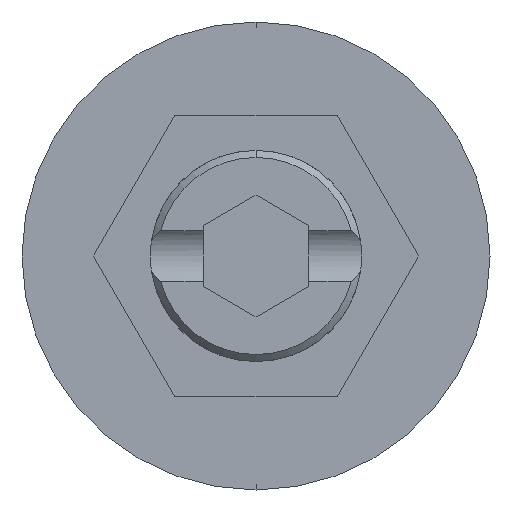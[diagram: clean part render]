
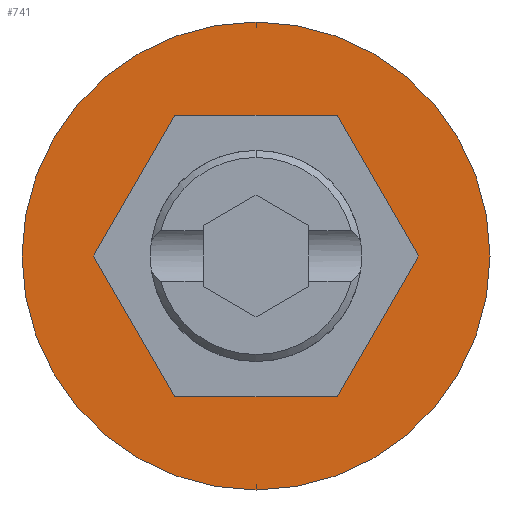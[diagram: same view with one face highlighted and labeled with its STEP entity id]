
A CAD part, front view. The second image highlights one B-rep face of the part: STEP entity #741.
In plain terms, the highlighted planar face has unit normal (0, -1, 0).
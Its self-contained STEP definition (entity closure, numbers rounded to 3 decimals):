
#2 = EDGE_LOOP ( 'NONE', ( #11, #1347, #1720, #942, #1673, #859 ) ) ;
#11 = ORIENTED_EDGE ( 'NONE', *, *, #1715, .F. ) ;
#18 = LINE ( 'NONE', #1355, #133 ) ;
#27 = EDGE_CURVE ( 'NONE', #1091, #922, #925, .T. ) ;
#53 = FACE_OUTER_BOUND ( 'NONE', #1239, .T. ) ;
#82 = CIRCLE ( 'NONE', #1373, 6.65 ) ;
#133 = VECTOR ( 'NONE', #854, 1000. ) ;
#134 = VERTEX_POINT ( 'NONE', #1877 ) ;
#158 = VERTEX_POINT ( 'NONE', #643 ) ;
#171 = EDGE_CURVE ( 'NONE', #1274, #647, #399, .T. ) ;
#176 = LINE ( 'NONE', #408, #654 ) ;
#207 = VECTOR ( 'NONE', #2114, 1000. ) ;
#235 = VECTOR ( 'NONE', #1366, 1000. ) ;
#287 = DIRECTION ( 'NONE',  ( 0., -1., 0. ) ) ;
#337 = EDGE_CURVE ( 'NONE', #837, #158, #82, .T. ) ;
#356 = ORIENTED_EDGE ( 'NONE', *, *, #1298, .T. ) ;
#396 = CARTESIAN_POINT ( 'NONE',  ( -4.619, 0., 0. ) ) ;
#399 = LINE ( 'NONE', #633, #1417 ) ;
#408 = CARTESIAN_POINT ( 'NONE',  ( -2.309, 0., 4. ) ) ;
#420 = EDGE_CURVE ( 'NONE', #134, #1091, #176, .T. ) ;
#490 = PLANE ( 'NONE',  #2022 ) ;
#542 = CARTESIAN_POINT ( 'NONE',  ( 0., 0., 6.65 ) ) ;
#561 = CARTESIAN_POINT ( 'NONE',  ( 0., 0., 0. ) ) ;
#627 = CARTESIAN_POINT ( 'NONE',  ( 0., 0., 0. ) ) ;
#633 = CARTESIAN_POINT ( 'NONE',  ( 4.619, 0., 0. ) ) ;
#643 = CARTESIAN_POINT ( 'NONE',  ( 0., 0., -6.65 ) ) ;
#647 = VERTEX_POINT ( 'NONE', #940 ) ;
#654 = VECTOR ( 'NONE', #1280, 1000. ) ;
#693 = LINE ( 'NONE', #2141, #207 ) ;
#695 = CARTESIAN_POINT ( 'NONE',  ( 2.309, 0., -4. ) ) ;
#741 = ADVANCED_FACE ( 'NONE', ( #1222, #53 ), #490, .T. ) ;
#837 = VERTEX_POINT ( 'NONE', #542 ) ;
#854 = DIRECTION ( 'NONE',  ( 0.5, 0., 0.866 ) ) ;
#859 = ORIENTED_EDGE ( 'NONE', *, *, #1588, .F. ) ;
#922 = VERTEX_POINT ( 'NONE', #2080 ) ;
#925 = LINE ( 'NONE', #965, #1992 ) ;
#940 = CARTESIAN_POINT ( 'NONE',  ( 2.309, 0., 4. ) ) ;
#942 = ORIENTED_EDGE ( 'NONE', *, *, #1495, .F. ) ;
#965 = CARTESIAN_POINT ( 'NONE',  ( -4.619, 0., 0. ) ) ;
#999 = CARTESIAN_POINT ( 'NONE',  ( 4.619, 0., 0. ) ) ;
#1018 = CIRCLE ( 'NONE', #1158, 6.65 ) ;
#1089 = ORIENTED_EDGE ( 'NONE', *, *, #337, .T. ) ;
#1091 = VERTEX_POINT ( 'NONE', #396 ) ;
#1099 = LINE ( 'NONE', #1532, #235 ) ;
#1158 = AXIS2_PLACEMENT_3D ( 'NONE', #627, #1441, #1297 ) ;
#1222 = FACE_BOUND ( 'NONE', #2, .T. ) ;
#1239 = EDGE_LOOP ( 'NONE', ( #356, #1089 ) ) ;
#1274 = VERTEX_POINT ( 'NONE', #999 ) ;
#1280 = DIRECTION ( 'NONE',  ( -0.5, 0., -0.866 ) ) ;
#1297 = DIRECTION ( 'NONE',  ( 0., 0., -1. ) ) ;
#1298 = EDGE_CURVE ( 'NONE', #158, #837, #1018, .T. ) ;
#1347 = ORIENTED_EDGE ( 'NONE', *, *, #27, .F. ) ;
#1355 = CARTESIAN_POINT ( 'NONE',  ( 2.309, 0., -4. ) ) ;
#1366 = DIRECTION ( 'NONE',  ( -1., 0., 0. ) ) ;
#1373 = AXIS2_PLACEMENT_3D ( 'NONE', #561, #1740, #1924 ) ;
#1417 = VECTOR ( 'NONE', #2125, 1000. ) ;
#1441 = DIRECTION ( 'NONE',  ( 0., -1., 0. ) ) ;
#1495 = EDGE_CURVE ( 'NONE', #647, #134, #1099, .T. ) ;
#1532 = CARTESIAN_POINT ( 'NONE',  ( 2.309, 0., 4. ) ) ;
#1564 = VERTEX_POINT ( 'NONE', #695 ) ;
#1588 = EDGE_CURVE ( 'NONE', #1564, #1274, #18, .T. ) ;
#1642 = DIRECTION ( 'NONE',  ( 0.5, 0., -0.866 ) ) ;
#1673 = ORIENTED_EDGE ( 'NONE', *, *, #171, .F. ) ;
#1715 = EDGE_CURVE ( 'NONE', #922, #1564, #693, .T. ) ;
#1720 = ORIENTED_EDGE ( 'NONE', *, *, #420, .F. ) ;
#1740 = DIRECTION ( 'NONE',  ( 0., -1., 0. ) ) ;
#1877 = CARTESIAN_POINT ( 'NONE',  ( -2.309, 0., 4. ) ) ;
#1924 = DIRECTION ( 'NONE',  ( 0., 0., -1. ) ) ;
#1992 = VECTOR ( 'NONE', #1642, 1000. ) ;
#2000 = CARTESIAN_POINT ( 'NONE',  ( 0., 0., 0. ) ) ;
#2022 = AXIS2_PLACEMENT_3D ( 'NONE', #2000, #287, #2068 ) ;
#2068 = DIRECTION ( 'NONE',  ( 0., 0., -1. ) ) ;
#2080 = CARTESIAN_POINT ( 'NONE',  ( -2.309, 0., -4. ) ) ;
#2114 = DIRECTION ( 'NONE',  ( 1., 0., 0. ) ) ;
#2125 = DIRECTION ( 'NONE',  ( -0.5, 0., 0.866 ) ) ;
#2141 = CARTESIAN_POINT ( 'NONE',  ( -2.309, 0., -4. ) ) ;
